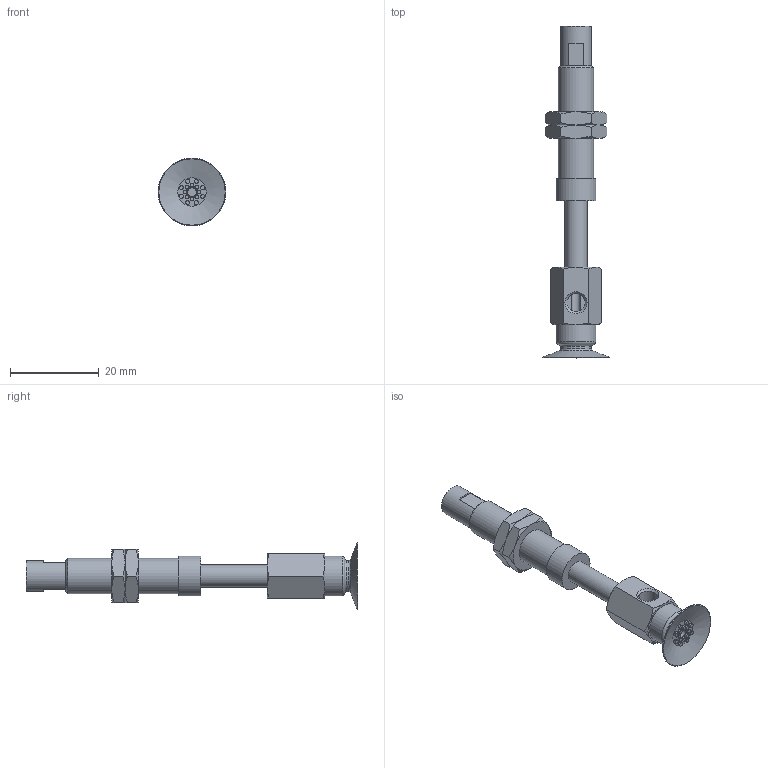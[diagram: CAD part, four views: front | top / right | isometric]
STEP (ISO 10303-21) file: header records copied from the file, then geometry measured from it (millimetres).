
FILE_DESCRIPTION(('STEP AP203'),'1');
FILE_NAME('.stp','2025-02-13T07:55:03',(' '),(' '),'Spatial InterOp 3D',' ',' ');
FILE_SCHEMA(('CONFIG_CONTROL_DESIGN'));
Length unit declared in the file: millimetre
Products named in the file (6): BNABPAYS-15A-15-※; NAPAYS-10A-15--M; NAPAYS-10A-15--F; Nut-10A-S; CONNECTOR-10A-15-PA; BPAG-15A-※_3D
Assembly tree (6 placements, depth 2):
  BNABPAYS-15A-15-※
    NAPAYS-10A-15--M
    NAPAYS-10A-15--F
    Nut-10A-S  x2
    CONNECTOR-10A-15-PA
    BPAG-15A-※_3D
Bounding box: 15.3 x 75 x 15.3 mm (x, y, z)
Volume: 3960.5 mm3; surface area: 4986.7 mm2
Topology: 6 solids, 6 shells, 160 faces, 316 edges, 193 vertices
Faces by surface type: plane 67, cone 50, cylinder 34, torus 9
Full cylindrical faces by diameter (mm): 0.9 x16, 2 x2, 4 x2, 4.134 x2, 5 x3, 6 x2, 7 x2, 7.188 x2, 8 x1, 9 x2
Entity records: 3728 total; most frequent: CARTESIAN_POINT 858, DIRECTION 556, ORIENTED_EDGE 416, AXIS2_PLACEMENT_3D 258, EDGE_LOOP 224, EDGE_CURVE 208, FACE_OUTER_BOUND 179, VERTEX_POINT 158
